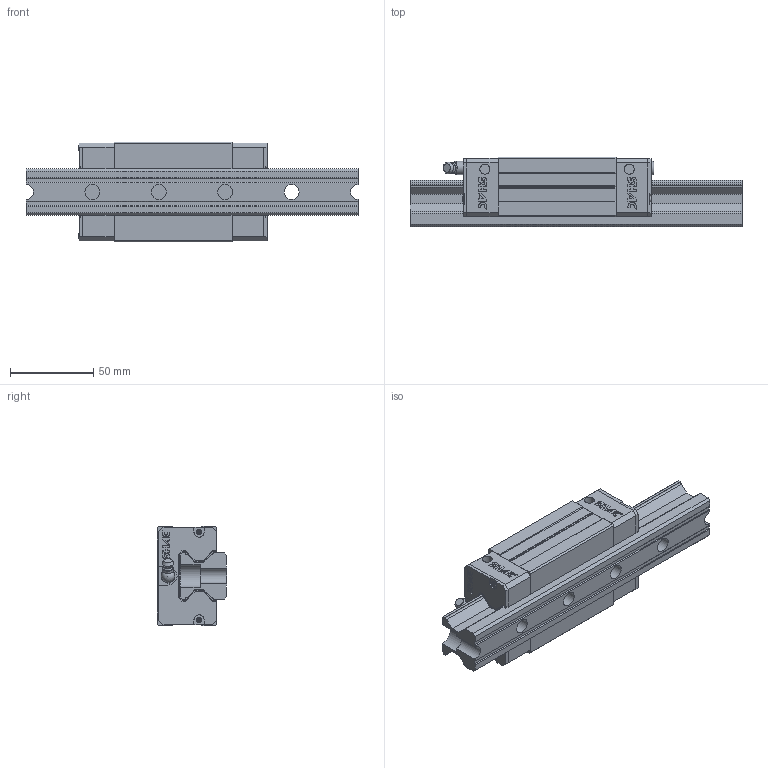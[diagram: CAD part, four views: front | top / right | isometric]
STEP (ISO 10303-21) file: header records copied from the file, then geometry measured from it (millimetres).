
FILE_DESCRIPTION( ( 'STEP AP214' ), '1' );
FILE_NAME( 'F:/品牌/SHAC 台湾鼎翰传动科技有限公司/3D滑块/GRL30CA1R200Z0CRC-0_0_1_1__.stp', '2025-04-21T22:52:08', ( 'License CC BY-ND 4.0' ), ( 'CADENAS' ), ' ', 'PARTsolutions', ' ' );
FILE_SCHEMA( ( 'AUTOMOTIVE_DESIGN { 1 0 10303 214 1 1 1 1 }' ) );
Length unit declared in the file: millimetre
Products named in the file (8): GRL30CA1R200Z0CRC-0/0(1_1_); _GR30R200-0/0(1)_RAIL; _GRL30CA_slider; _GRL30_C; _GRL30_P; _GR30_SCREW; _GH30_BOLT; _GH30-_G
Assembly tree (12 placements, depth 2):
  GRL30CA1R200Z0CRC-0/0(1_1_)
    _GR30R200-0/0(1)_RAIL
    _GRL30CA_slider
    _GRL30_C  x2
    _GRL30_P  x2
    _GR30_SCREW  x4
    _GH30_BOLT
    _GH30-_G
Bounding box: 200 x 42 x 60 mm (x, y, z)
Volume: 295213.3 mm3; surface area: 75968 mm2
Topology: 12 solids, 12 shells, 808 faces, 2175 edges, 1439 vertices
Faces by surface type: plane 658, cylinder 116, cone 22, torus 6, sphere 5, bspline 1
Full cylindrical faces by diameter (mm): 3.2 x4, 3.4 x4, 4.5 x1, 5 x2, 6 x6, 6.5 x2, 6.647 x6, 8 x1, 8.2 x1, 9 x4, 10.1 x2, 14 x4
Entity records: 19373 total; most frequent: CARTESIAN_POINT 2851, ORIENTED_EDGE 2558, DIRECTION 2460, EDGE_CURVE 1279, LINE 1058, VECTOR 1058, VERTEX_POINT 872, AXIS2_PLACEMENT_3D 701
